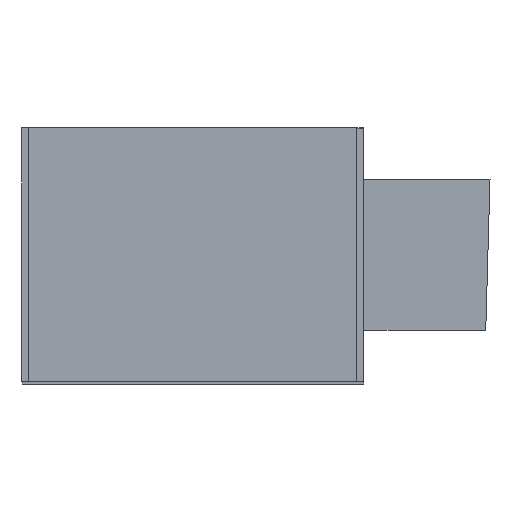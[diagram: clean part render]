
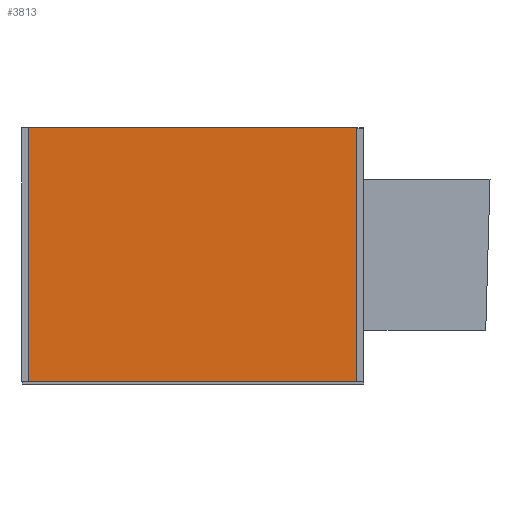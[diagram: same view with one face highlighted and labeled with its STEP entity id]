
A CAD part, left-side view. The second image highlights one B-rep face of the part: STEP entity #3813.
In plain terms, the highlighted planar face has unit normal (-1, 0, 0) as drawn and (0, 0, 1) by its records, which use the part's own axes.
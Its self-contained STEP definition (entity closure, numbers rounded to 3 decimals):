
#234 = CARTESIAN_POINT ( 'NONE',  ( -148.376, 73.687, 0. ) ) ;
#235 = AXIS2_PLACEMENT_3D ( 'NONE', #3763, #2675, #273 ) ;
#273 = DIRECTION ( 'NONE',  ( -1., 0., 0. ) ) ;
#299 = DIRECTION ( 'NONE',  ( 1., 0., 0. ) ) ;
#403 = CIRCLE ( 'NONE', #3918, 0.2 ) ;
#444 = EDGE_CURVE ( 'NONE', #4576, #3770, #4742, .T. ) ;
#633 = CARTESIAN_POINT ( 'NONE',  ( -148.376, 73.887, 0. ) ) ;
#636 = EDGE_CURVE ( 'NONE', #1238, #4131, #2108, .T. ) ;
#1099 = AXIS2_PLACEMENT_3D ( 'NONE', #3018, #4520, #4998 ) ;
#1238 = VERTEX_POINT ( 'NONE', #3656 ) ;
#1240 = ORIENTED_EDGE ( 'NONE', *, *, #3728, .T. ) ;
#1249 = ORIENTED_EDGE ( 'NONE', *, *, #2022, .T. ) ;
#1252 = CARTESIAN_POINT ( 'NONE',  ( -148.176, 457.687, 0. ) ) ;
#1519 = VECTOR ( 'NONE', #2770, 1000. ) ;
#1612 = DIRECTION ( 'NONE',  ( 0., 0., 1. ) ) ;
#1621 = DIRECTION ( 'NONE',  ( -1., 0., 0. ) ) ;
#1796 = DIRECTION ( 'NONE',  ( -1., 0., 0. ) ) ;
#1844 = CIRCLE ( 'NONE', #4661, 0.2 ) ;
#1854 = PLANE ( 'NONE',  #235 ) ;
#1968 = EDGE_CURVE ( 'NONE', #4731, #2477, #5319, .T. ) ;
#1981 = VERTEX_POINT ( 'NONE', #2123 ) ;
#2022 = EDGE_CURVE ( 'NONE', #4576, #1981, #403, .T. ) ;
#2108 = CIRCLE ( 'NONE', #1099, 0.2 ) ;
#2123 = CARTESIAN_POINT ( 'NONE',  ( -445.176, 457.487, 0. ) ) ;
#2140 = LINE ( 'NONE', #3606, #1519 ) ;
#2200 = CARTESIAN_POINT ( 'NONE',  ( -148.176, 457.487, 0. ) ) ;
#2237 = EDGE_LOOP ( 'NONE', ( #4203, #3283, #3717, #3791, #2293, #1240, #5267, #1249 ) ) ;
#2293 = ORIENTED_EDGE ( 'NONE', *, *, #2478, .F. ) ;
#2333 = FACE_OUTER_BOUND ( 'NONE', #2237, .T. ) ;
#2423 = AXIS2_PLACEMENT_3D ( 'NONE', #633, #2629, #6033 ) ;
#2477 = VERTEX_POINT ( 'NONE', #4519 ) ;
#2478 = EDGE_CURVE ( 'NONE', #2912, #2477, #2140, .T. ) ;
#2629 = DIRECTION ( 'NONE',  ( 0., 0., 1. ) ) ;
#2669 = CARTESIAN_POINT ( 'NONE',  ( -444.976, 73.687, 0. ) ) ;
#2675 = DIRECTION ( 'NONE',  ( 0., 0., -1. ) ) ;
#2770 = DIRECTION ( 'NONE',  ( 0., -1., 0. ) ) ;
#2846 = EDGE_CURVE ( 'NONE', #4731, #4131, #3501, .T. ) ;
#2912 = VERTEX_POINT ( 'NONE', #2200 ) ;
#3018 = CARTESIAN_POINT ( 'NONE',  ( -444.976, 73.887, 0. ) ) ;
#3162 = VECTOR ( 'NONE', #3948, 1000. ) ;
#3191 = VECTOR ( 'NONE', #299, 1000. ) ;
#3283 = ORIENTED_EDGE ( 'NONE', *, *, #636, .T. ) ;
#3500 = CARTESIAN_POINT ( 'NONE',  ( -445.176, 457.687, 0. ) ) ;
#3501 = LINE ( 'NONE', #4926, #3520 ) ;
#3520 = VECTOR ( 'NONE', #1621, 1000. ) ;
#3541 = CARTESIAN_POINT ( 'NONE',  ( -444.976, 457.687, 0. ) ) ;
#3606 = CARTESIAN_POINT ( 'NONE',  ( -148.176, 457.687, 0. ) ) ;
#3656 = CARTESIAN_POINT ( 'NONE',  ( -445.176, 73.887, 0. ) ) ;
#3699 = CARTESIAN_POINT ( 'NONE',  ( -148.376, 457.687, 0. ) ) ;
#3717 = ORIENTED_EDGE ( 'NONE', *, *, #2846, .F. ) ;
#3728 = EDGE_CURVE ( 'NONE', #2912, #3770, #1844, .T. ) ;
#3763 = CARTESIAN_POINT ( 'NONE',  ( -148.176, 73.687, 0. ) ) ;
#3770 = VERTEX_POINT ( 'NONE', #3699 ) ;
#3791 = ORIENTED_EDGE ( 'NONE', *, *, #1968, .T. ) ;
#3813 = ADVANCED_FACE ( 'NONE', ( #2333 ), #1854, .F. ) ;
#3918 = AXIS2_PLACEMENT_3D ( 'NONE', #5502, #1612, #4567 ) ;
#3948 = DIRECTION ( 'NONE',  ( 0., 1., 0. ) ) ;
#3975 = EDGE_CURVE ( 'NONE', #1238, #1981, #4954, .T. ) ;
#4131 = VERTEX_POINT ( 'NONE', #2669 ) ;
#4203 = ORIENTED_EDGE ( 'NONE', *, *, #3975, .F. ) ;
#4519 = CARTESIAN_POINT ( 'NONE',  ( -148.176, 73.887, 0. ) ) ;
#4520 = DIRECTION ( 'NONE',  ( 0., 0., 1. ) ) ;
#4567 = DIRECTION ( 'NONE',  ( -1., 0., 0. ) ) ;
#4576 = VERTEX_POINT ( 'NONE', #3541 ) ;
#4661 = AXIS2_PLACEMENT_3D ( 'NONE', #5576, #5175, #1796 ) ;
#4731 = VERTEX_POINT ( 'NONE', #234 ) ;
#4742 = LINE ( 'NONE', #1252, #3191 ) ;
#4926 = CARTESIAN_POINT ( 'NONE',  ( -148.176, 73.687, 0. ) ) ;
#4954 = LINE ( 'NONE', #3500, #3162 ) ;
#4998 = DIRECTION ( 'NONE',  ( -1., 0., 0. ) ) ;
#5175 = DIRECTION ( 'NONE',  ( 0., 0., 1. ) ) ;
#5267 = ORIENTED_EDGE ( 'NONE', *, *, #444, .F. ) ;
#5319 = CIRCLE ( 'NONE', #2423, 0.2 ) ;
#5502 = CARTESIAN_POINT ( 'NONE',  ( -444.976, 457.487, 0. ) ) ;
#5576 = CARTESIAN_POINT ( 'NONE',  ( -148.376, 457.487, 0. ) ) ;
#6033 = DIRECTION ( 'NONE',  ( -1., 0., 0. ) ) ;
